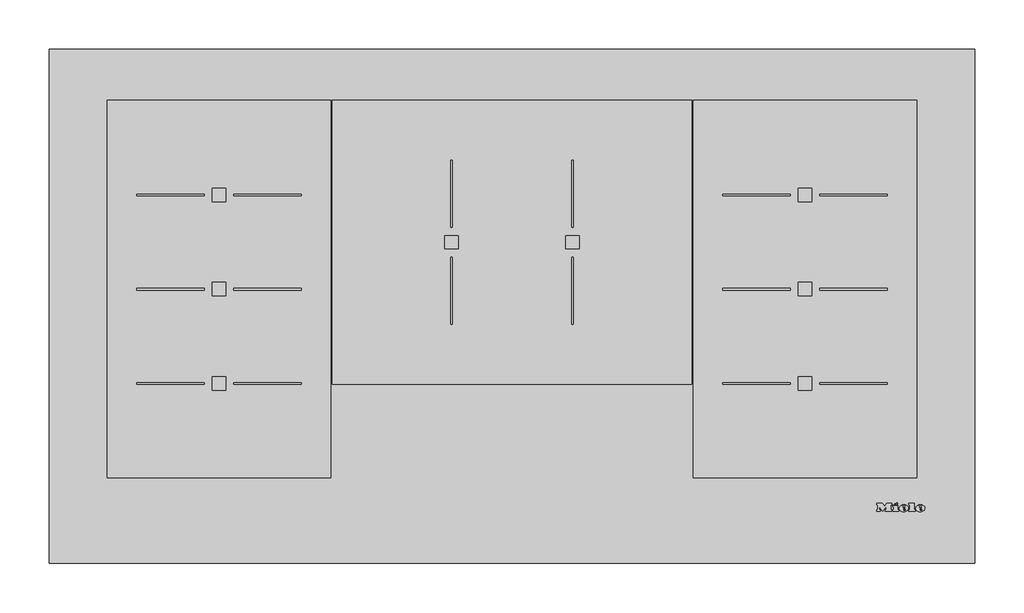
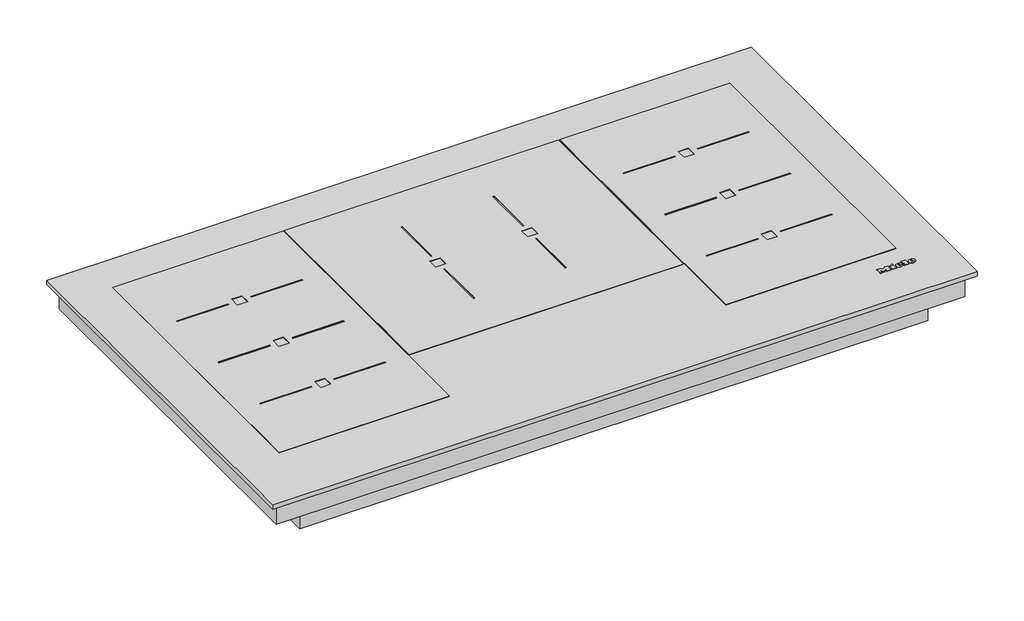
# Not in any storey: 1 proxy.
"""IFC4 building model written with IfcOpenShell, lengths in millimetres."""

import ifcopenshell
import ifcopenshell.guid

model = None  # the IFC model being written
_history = None  # IfcOwnerHistory: only IFC2X3 demands one
_inside = {}  # id of a spatial element -> (the spatial element, [elements in it])
_under = {}  # id of a project, library or spatial element -> (it, [spatial elements below it])
_declared = {}  # id of a project -> (the project, [libraries it declares])
_typed = {}  # id of a type object -> (the type object, [elements of that type])
_made_of = {}  # id of a material, layer set ... -> (it, [elements and type objects made of it])


def new_model(schema):
    """Start an empty IFC model of exactly this schema.

    Asked for "IFC4X3", IfcOpenShell would pick the latest addendum, in which some entities
    have other attributes; the version numbers below select the first issue.
    IFC2X3 requires an IfcOwnerHistory on every rooted entity: one is made here for all.
    """
    global model, _history
    if schema == "IFC4X3":
        model = ifcopenshell.file(schema_version=(4, 3, 0, 0))
    else:
        model = ifcopenshell.file(schema=schema)
    _inside.clear()
    _under.clear()
    _declared.clear()
    _typed.clear()
    _made_of.clear()
    _history = None
    if model.schema == "IFC2X3":
        org = make("IfcOrganization", Name="unknown")
        user = make(
            "IfcPersonAndOrganization",
            ThePerson=make("IfcPerson", FamilyName="unknown"),
            TheOrganization=org,
        )
        app = make(
            "IfcApplication",
            ApplicationDeveloper=org,
            Version="unknown",
            ApplicationFullName="unknown",
            ApplicationIdentifier="unknown",
        )
        _history = make(
            "IfcOwnerHistory",
            OwningUser=user,
            OwningApplication=app,
            ChangeAction="ADDED",
            CreationDate=0,
        )
    return model


def make(cls, **values):
    """One entity of the class cls with the attributes given. An attribute that is None is left unset."""
    return model.create_entity(
        cls, **{name: value for name, value in values.items() if value is not None}
    )


def rooted(cls, **values):
    """An entity with a GlobalId (a new one), such as an element, a storey or a relation."""
    return make(cls, GlobalId=ifcopenshell.guid.new(), OwnerHistory=_history, **values)


def si_unit(unit_type, name, prefix=None):
    """IfcSIUnit, for example si_unit("LENGTHUNIT", "METRE", prefix="MILLI")."""
    return make("IfcSIUnit", UnitType=unit_type, Prefix=prefix, Name=name)


def assignment(units):
    """IfcUnitAssignment: the units of a project."""
    return None if units is None else make("IfcUnitAssignment", Units=units)


def point(xyz):
    """IfcCartesianPoint."""
    return None if xyz is None else make("IfcCartesianPoint", Coordinates=xyz)


def direction(xyz):
    """IfcDirection."""
    return None if xyz is None else make("IfcDirection", DirectionRatios=xyz)


def frame(location, z_axis=None, x_axis=None):
    """IfcAxis2Placement3D, a coordinate frame: its origin and axes. An axis left out is left unset."""
    return make(
        "IfcAxis2Placement3D",
        Location=point(location),
        Axis=direction(z_axis),
        RefDirection=direction(x_axis),
    )


def frame_2d(location, x_axis=None):
    """IfcAxis2Placement2D, a coordinate frame in the plane: its origin and x axis."""
    return make(
        "IfcAxis2Placement2D", Location=point(location), RefDirection=direction(x_axis)
    )


def origin():
    """The frame at (0, 0, 0) with its axes left unset."""
    return frame((0.0, 0.0, 0.0))


def origin_with_axes():
    """The frame at (0, 0, 0) with the z axis (0, 0, 1) and the x axis (1, 0, 0) written out."""
    return frame((0.0, 0.0, 0.0), z_axis=(0.0, 0.0, 1.0), x_axis=(1.0, 0.0, 0.0))


def place(relative_to, where):
    """IfcLocalPlacement: puts the frame where relative to a parent placement (None: the world)."""
    return make(
        "IfcLocalPlacement", PlacementRelTo=relative_to, RelativePlacement=where
    )


def context(
    kind, dimensions, precision=None, world=None, true_north=None, identifier=None
):
    """IfcGeometricRepresentationContext, for example the 3D "Model" context."""
    return make(
        "IfcGeometricRepresentationContext",
        ContextIdentifier=identifier,
        ContextType=kind,
        CoordinateSpaceDimension=dimensions,
        Precision=precision,
        WorldCoordinateSystem=world,
        TrueNorth=true_north,
    )


def project(units=None, contexts=None):
    """IfcProject with its units and contexts."""
    return rooted(
        "IfcProject",
        Name="project",
        RepresentationContexts=contexts,
        UnitsInContext=assignment(units),
    )


def spatial(cls, under=None, at=None, **own):
    """A site, building, storey or space (cls), placed at a placement, below another one or the project."""
    s = rooted(cls, ObjectPlacement=at, **own)
    if under is not None:
        _under.setdefault(under.id(), (under, []))[1].append(s)
    return s


def polyline(points):
    """IfcPolyline through the points."""
    return make("IfcPolyline", Points=[point(p) for p in points])


def circle_curve(where, radius):
    """IfcCircle in the frame where."""
    return make("IfcCircle", Position=where, Radius=radius)


def ellipse_curve(where, semi_axis1, semi_axis2):
    """IfcEllipse in the frame where."""
    return make(
        "IfcEllipse", Position=where, SemiAxis1=semi_axis1, SemiAxis2=semi_axis2
    )


def trimmed(basis, trim1, trim2, sense, master):
    """IfcTrimmedCurve: the piece of a basis curve between two trims."""
    return make(
        "IfcTrimmedCurve",
        BasisCurve=basis,
        Trim1=trim1,
        Trim2=trim2,
        SenseAgreement=sense,
        MasterRepresentation=master,
    )


def segment(curve, same_sense, transition):
    """IfcCompositeCurveSegment."""
    return make(
        "IfcCompositeCurveSegment",
        Transition=transition,
        SameSense=same_sense,
        ParentCurve=curve,
    )


def composite_curve(segments, self_intersect=None):
    """IfcCompositeCurve: segments joined end to end."""
    return make("IfcCompositeCurve", Segments=segments, SelfIntersect=self_intersect)


def outline(outer, holes=None, kind="AREA"):
    """IfcArbitraryClosedProfileDef: a profile drawn as a closed curve; with holes, ...WithVoids."""
    if holes is None:
        return make("IfcArbitraryClosedProfileDef", ProfileType=kind, OuterCurve=outer)
    return make(
        "IfcArbitraryProfileDefWithVoids",
        ProfileType=kind,
        OuterCurve=outer,
        InnerCurves=holes,
    )


def extrude(swept, where, along, depth):
    """IfcExtrudedAreaSolid: the profile swept, set in the frame where, extruded along a direction by depth."""
    return make(
        "IfcExtrudedAreaSolid",
        SweptArea=swept,
        Position=where,
        ExtrudedDirection=direction(along),
        Depth=depth,
    )


def faces_of(points, faces, orient=None, outer=None):
    """IfcFace entities. A face is a list of loops; a loop is a list of indices into points, from 0.

    orient and outer hold one flag for each loop. By default every Orientation is true, the
    first loop of a face is its IfcFaceOuterBound and the others are IfcFaceBound.
    """
    made = []
    for i, loops in enumerate(faces):
        bounds = []
        for j, loop in enumerate(loops):
            is_outer = j == 0 if outer is None else outer[i][j]
            bounds.append(
                make(
                    "IfcFaceOuterBound" if is_outer else "IfcFaceBound",
                    Bound=make("IfcPolyLoop", Polygon=[points[k] for k in loop]),
                    Orientation=True if orient is None else orient[i][j],
                )
            )
        made.append(make("IfcFace", Bounds=bounds))
    return made


def faceted_brep(points, faces, orient=None, outer=None, voids=None):
    """IfcFacetedBrep: a solid bounded by flat faces; with voids (closed shells), ...WithVoids."""
    shared = [point(p) for p in points]
    hull = make("IfcClosedShell", CfsFaces=faces_of(shared, faces, orient, outer))
    if voids is None:
        return make("IfcFacetedBrep", Outer=hull)
    return make(
        "IfcFacetedBrepWithVoids",
        Outer=hull,
        Voids=[
            make(cls, CfsFaces=faces_of(shared, fs, o, b)) for cls, fs, o, b in voids
        ],
    )


def shape(context_of_items, identifier, shape_type, items):
    """IfcShapeRepresentation: the items that make up one representation, for example the "Body"."""
    return make(
        "IfcShapeRepresentation",
        ContextOfItems=context_of_items,
        RepresentationIdentifier=identifier,
        RepresentationType=shape_type,
        Items=items,
    )


def source(mapping_origin, context_of_items, identifier, shape_type, items):
    """IfcRepresentationMap: a shape defined once, which mapped items show again and again."""
    return make(
        "IfcRepresentationMap",
        MappingOrigin=mapping_origin,
        MappedRepresentation=shape(context_of_items, identifier, shape_type, items),
    )


def transform(
    local_origin,
    x_axis=None,
    y_axis=None,
    z_axis=None,
    scale=None,
    scale2=None,
    scale3=None,
    uniform=True,
):
    """IfcCartesianTransformationOperator3D, or its non-uniform kind. x_axis, y_axis, z_axis: its Axis1, 2, 3."""
    if uniform:
        return make(
            "IfcCartesianTransformationOperator3D",
            Axis1=direction(x_axis),
            Axis2=direction(y_axis),
            LocalOrigin=point(local_origin),
            Scale=scale,
            Axis3=direction(z_axis),
        )
    return make(
        "IfcCartesianTransformationOperator3DnonUniform",
        Axis1=direction(x_axis),
        Axis2=direction(y_axis),
        LocalOrigin=point(local_origin),
        Scale=scale,
        Axis3=direction(z_axis),
        Scale2=scale2,
        Scale3=scale3,
    )


def mapped(mapping_source, mapping_target):
    """IfcMappedItem: shows the shape of a source again, moved by a transform."""
    return make(
        "IfcMappedItem", MappingSource=mapping_source, MappingTarget=mapping_target
    )


def made_of(thing, what):
    """Note that an element or type object is made of a material, layer set ...; save() writes the relation."""
    if what is not None:
        _made_of.setdefault(what.id(), (what, []))[1].append(thing)
    return thing


def element(
    cls,
    number,
    at=None,
    inside=None,
    cuts=None,
    type_object=None,
    material=None,
    context=None,
    identifier="Body",
    shape_type=None,
    held_by="IfcProductDefinitionShape",
    body=None,
    shapes=None,
    **own,
):
    """One element of the class cls, such as IfcWall. Its Tag is "e" and its number.

    at: its placement. inside: the storey or other place that contains it. cuts: it is an
    opening in that element (IfcRelVoidsElement). A single representation is given by context,
    identifier, shape_type and body (its items); several are given by shapes. held_by: the class
    of the entity that holds the representations. save() writes the other relations.
    """
    e = rooted(cls, Tag="e%d" % number, ObjectPlacement=at, **own)
    if body is not None:
        shapes = [shape(context, identifier, shape_type, body)]
    if shapes is not None:
        e.Representation = make(held_by, Representations=shapes)
    if inside is not None:
        _inside.setdefault(inside.id(), (inside, []))[1].append(e)
    if cuts is not None:
        rooted(
            "IfcRelVoidsElement", RelatingBuildingElement=cuts, RelatedOpeningElement=e
        )
    if type_object is not None:
        _typed.setdefault(type_object.id(), (type_object, []))[1].append(e)
    return made_of(e, material)


def aggregate(whole, parts):
    """IfcRelAggregates: a whole, such as a stair, and the parts it consists of."""
    return rooted("IfcRelAggregates", RelatingObject=whole, RelatedObjects=parts)


def save(model, path):
    """Write the relations noted so far, then the file.

    IfcRelAggregates (storeys below a building ...), IfcRelContainedInSpatialStructure (elements
    in a storey), IfcRelDefinesByType, IfcRelAssociatesMaterial and IfcRelDeclares: one each for
    every whole, place, type object, material and project.
    """
    for whole, parts in _under.values():
        aggregate(whole, parts)
    for where, things in _inside.values():
        rooted(
            "IfcRelContainedInSpatialStructure",
            RelatedElements=things,
            RelatingStructure=where,
        )
    for kind, things in _typed.values():
        rooted("IfcRelDefinesByType", RelatedObjects=things, RelatingType=kind)
    for what, things in _made_of.values():
        rooted("IfcRelAssociatesMaterial", RelatedObjects=things, RelatingMaterial=what)
    for by, libraries in _declared.values():
        rooted("IfcRelDeclares", RelatingContext=by, RelatedDefinitions=libraries)
    model.write(path)


def plane_surface(at):
    """IfcPlane: the flat surface through the origin of the frame at, square to its z axis."""
    return make("IfcPlane", Position=at)


def cylinder_surface(at, radius):
    """IfcCylindricalSurface: all points at the distance radius from the z axis of the frame at."""
    return make("IfcCylindricalSurface", Position=at, Radius=radius)


def revolved_surface(curve, axis_point, axis_direction):
    """IfcSurfaceOfRevolution: the curve turned about the line through axis_point along axis_direction."""
    return make(
        "IfcSurfaceOfRevolution",
        SweptCurve=make("IfcArbitraryOpenProfileDef", ProfileType="CURVE", Curve=curve),
        AxisPosition=make("IfcAxis1Placement", Location=point(axis_point), Axis=direction(axis_direction)),
    )


def extruded_surface(curve, direction_of_extrusion, depth):
    """IfcSurfaceOfLinearExtrusion: the curve pushed along a direction by depth."""
    return make(
        "IfcSurfaceOfLinearExtrusion",
        SweptCurve=make("IfcArbitraryOpenProfileDef", ProfileType="CURVE", Curve=curve),
        ExtrudedDirection=direction(direction_of_extrusion),
        Depth=depth,
    )


def advanced_brep(points, edges, surfaces, faces):
    """IfcAdvancedBrep: a solid bounded by faces that lie on surfaces and meet in shared edges.

    An edge is (start, end): straight between two places in points (the first is 0);
    or (start, end, curve); or (start, end, curve, False) where it runs against its curve.
    A face is (place in surfaces, loops), or (place, loops, False) where it looks against
    its surface's normal. A loop lists edges by number (the first is 1), with a minus sign
    where the edge is run from its end to its start. The first loop is the outer one.
    """
    corners = [point(p) for p in points]
    vertices = [make("IfcVertexPoint", VertexGeometry=c) for c in corners]
    made = []
    for start, end, *more in edges:
        made.append(
            make(
                "IfcEdgeCurve",
                EdgeStart=vertices[start],
                EdgeEnd=vertices[end],
                EdgeGeometry=more[0] if more else make("IfcPolyline", Points=[corners[start], corners[end]]),
                SameSense=more[1] if len(more) > 1 else True,
            )
        )
    hull = []
    for where, loops, *sense in faces:
        bounds = []
        for j, loop in enumerate(loops):
            ring = [make("IfcOrientedEdge", EdgeElement=made[abs(k) - 1], Orientation=k > 0) for k in loop]
            bounds.append(
                make(
                    "IfcFaceOuterBound" if j == 0 else "IfcFaceBound",
                    Bound=make("IfcEdgeLoop", EdgeList=ring),
                    Orientation=True,
                )
            )
        hull.append(make("IfcAdvancedFace", Bounds=bounds, FaceSurface=surfaces[where], SameSense=sense[0] if sense else True))
    return make("IfcAdvancedBrep", Outer=make("IfcClosedShell", CfsFaces=hull))


def specialty_equipment_02190315(model_context):
    return source(origin(), model_context, "Body", "SolidModel", [
        advanced_brep(
        [(412.46, 54.6948833, 6.4802537), (412.46, 55.5028828, 6.4811551), (417.812, 55.5028828, 6.4811551), (408.5, 55.5028828, 6.4811551), (410.7, 52.7988845, 6.4781386), (417.676, 54.6948833, 6.4802537), (415.26, 54.6948833, 6.4802537), (413.356, 53.7988838, 6.4792542), (412.46, 56.5268821, 6.4822974), (412.46, 57.3988816, 6.4832701), (413.828, 57.3988816, 6.4832701), (413.828, 56.5268821, 6.4822974), (412.46, 54.6959988, 5.4802543), (413.356, 53.7999994, 5.4792548), (415.26, 54.6959988, 5.4802543), (417.676, 54.6959988, 5.4802543), (410.7, 52.8, 5.4781393), (408.5, 55.5039983, 5.4811557), (417.812, 55.5039983, 5.4811557), (412.46, 55.5039983, 5.4811557), (412.46, 56.5279977, 5.482298), (413.828, 56.5279977, 5.482298), (413.828, 57.3999971, 5.4832707), (412.46, 57.3999971, 5.4832707)],
        [
            (0, 1),
            (1, 2),
            (2, 3, ellipse_curve(frame((413.156, 55.5028828, 6.4811551), z_axis=(0.0, -0.0011155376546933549, 0.9999993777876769), x_axis=(-1.0, 0.0, 0.0)), 4.656, 3.848)),
            (3, 4, circle_curve(frame((411.5960436, 55.7748826, 6.4814585), z_axis=(0.0, -0.0011155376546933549, 0.9999993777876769), x_axis=(0.0, -0.9999993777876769, -0.0011155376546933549)), 3.1079688)),
            (4, 5, circle_curve(frame((413.0627936, 57.8868813, 6.4838145), z_axis=(0.0, -0.0011155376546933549, 0.9999993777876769), x_axis=(0.0, -0.9999993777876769, -0.0011155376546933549)), 5.6098607)),
            (5, 6),
            (6, 7, circle_curve(frame((413.7470588, 55.4388828, 6.4810837), z_axis=(0.0, 0.0011155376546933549, -0.9999993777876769), x_axis=(0.0, -0.9999993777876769, -0.0011155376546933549)), 1.6859795)),
            (7, 0, circle_curve(frame((413.356, 54.6948833, 6.4802537), z_axis=(0.0, 0.0011155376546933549, -0.9999993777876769), x_axis=(0.0, -0.9999993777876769, -0.0011155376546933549)), 0.896)),
            (8, 9),
            (9, 10, circle_curve(frame((413.144, 57.3988816, 6.4832701), z_axis=(0.0, 0.0011155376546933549, -0.9999993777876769), x_axis=(0.0, -0.9999993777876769, -0.0011155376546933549)), 0.684)),
            (10, 11),
            (11, 8),
            (12, 13, circle_curve(frame((413.356, 54.6959988, 5.4802543), z_axis=(0.0, -0.0011155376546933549, 0.9999993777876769), x_axis=(0.0, -0.9999993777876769, -0.0011155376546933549)), 0.896)),
            (13, 14, circle_curve(frame((413.7470588, 55.4399984, 5.4810843), z_axis=(0.0, -0.0011155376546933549, 0.9999993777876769), x_axis=(0.0, -0.9999993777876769, -0.0011155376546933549)), 1.6859795)),
            (14, 15),
            (15, 16, circle_curve(frame((413.0627936, 57.8879968, 5.4838151), z_axis=(0.0, 0.0011155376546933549, -0.9999993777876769), x_axis=(0.0, -0.9999993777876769, -0.0011155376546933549)), 5.6098607)),
            (16, 17, circle_curve(frame((411.5960436, 55.7759981, 5.4814591), z_axis=(0.0, 0.0011155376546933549, -0.9999993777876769), x_axis=(0.0, -0.9999993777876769, -0.0011155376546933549)), 3.1079688)),
            (17, 18, ellipse_curve(frame((413.156, 55.5039983, 5.4811557), z_axis=(0.0, 0.0011155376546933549, -0.9999993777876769), x_axis=(-1.0, 0.0, 0.0)), 4.656, 3.848)),
            (18, 19),
            (19, 12),
            (20, 21),
            (21, 22),
            (22, 23, circle_curve(frame((413.144, 57.3999971, 5.4832707), z_axis=(0.0, -0.0011155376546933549, 0.9999993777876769), x_axis=(0.0, -0.9999993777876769, -0.0011155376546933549)), 0.684)),
            (23, 20),
            (0, 12),
            (19, 1),
            (18, 2),
            (5, 15),
            (14, 6),
            (17, 3),
            (13, 7),
            (16, 4),
            (8, 20),
            (23, 9),
            (22, 10),
            (21, 11),
        ],
        [
            plane_surface(frame((412.46, 55.5028828, 6.4811551), z_axis=(0.0, -0.0011155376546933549, 0.9999993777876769), x_axis=(0.0, 0.9999993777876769, 0.0011155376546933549))),
            plane_surface(frame((412.46, 55.5039983, 5.4811557), z_axis=(0.0, 0.0011155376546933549, -0.9999993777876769), x_axis=(0.0, -0.9999993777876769, -0.0011155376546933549))),
            plane_surface(frame((412.46, 54.6948833, 6.4802537), z_axis=(1.0000000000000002, 0.0, 0.0), x_axis=(0.0, 0.001115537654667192, -0.999999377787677))),
            plane_surface(frame((412.46, 55.5028828, 6.4811551), z_axis=(0.0, -0.999999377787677, -0.001115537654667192), x_axis=(0.0, 0.001115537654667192, -0.999999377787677))),
            plane_surface(frame((417.676, 54.6948833, 6.4802537), z_axis=(0.0, 0.999999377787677, 0.001115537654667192), x_axis=(0.0, 0.001115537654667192, -0.999999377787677))),
            extruded_surface(trimmed(ellipse_curve(frame((413.156, 55.5051139, 4.4811563), z_axis=(0.0, -0.0011155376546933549, 0.9999993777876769), x_axis=(-1.0, 0.0, 0.0)), 4.656, 3.848), [point((417.812, 55.5051139, 4.4811563))], [point((408.5, 55.5051139, 4.4811563))], True, "CARTESIAN"), (0.0, -0.001115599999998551, 0.9999994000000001), 1.00000002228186),
            revolved_surface(polyline([(413.7470588, 53.75401994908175, 5.479203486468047), (413.7470588, 53.75290441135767, 6.4792029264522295)]), (413.7470588, 55.4399984, 5.4810843), (0.0, 0.0011155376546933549, -0.9999993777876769)),
            revolved_surface(polyline([(413.356, 53.79999935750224, 5.479254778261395), (413.356, 53.79888381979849, 6.479254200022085)]), (413.356, 54.6959988, 5.4802543), (0.0, 0.0011155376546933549, -0.9999993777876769)),
            cylinder_surface(frame((411.5960436, 55.7759981, 5.4814591), z_axis=(0.0, -0.0011155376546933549, 0.9999993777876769), x_axis=(0.0, -0.9999993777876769, -0.0011155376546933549)), 3.1079688),
            cylinder_surface(frame((413.0627936, 57.8879968, 5.4838151), z_axis=(0.0, -0.0011155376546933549, 0.9999993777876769), x_axis=(0.0, -0.9999993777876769, -0.0011155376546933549)), 5.6098607),
            plane_surface(frame((412.46, 56.5268821, 6.4822974), z_axis=(1.0000000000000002, 0.0, 0.0), x_axis=(0.0, 0.001115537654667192, -0.999999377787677))),
            revolved_surface(polyline([(413.144, 56.71599752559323, 5.48250767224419), (413.144, 56.714881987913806, 6.482507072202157)]), (413.144, 57.3999971, 5.4832707), (0.0, 0.0011155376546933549, -0.9999993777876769)),
            plane_surface(frame((413.828, 57.3988816, 6.4832701), z_axis=(-1.0000000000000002, 0.0, 0.0), x_axis=(0.0, 0.001115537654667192, -0.999999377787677))),
            plane_surface(frame((413.828, 56.5268821, 6.4822974), z_axis=(0.0, 0.999999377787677, 0.001115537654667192), x_axis=(0.0, 0.001115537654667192, -0.999999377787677))),
        ],
        [
            (0, [[1, 2, 3, 4, 5, 6, 7, 8], [9, 10, 11, 12]]),
            (1, [[13, 14, 15, 16, 17, 18, 19, 20], [21, 22, 23, 24]]),
            (2, [[-1, 25, -20, 26]]),
            (3, [[-2, -26, -19, 27]]),
            (4, [[-6, 28, -15, 29]]),
            (5, [[-3, -27, -18, 30]]),
            (6, [[-7, -29, -14, 31]]),
            (7, [[-8, -31, -13, -25]]),
            (8, [[-4, -30, -17, 32]]),
            (9, [[-5, -32, -16, -28]]),
            (10, [[-9, 33, -24, 34]]),
            (11, [[-10, -34, -23, 35]]),
            (12, [[-11, -35, -22, 36]]),
            (13, [[-12, -36, -21, -33]]),
        ],
    ),
        advanced_brep(
        [(395.764, 54.6948833, 6.4802537), (395.764, 55.5028828, 6.4811551), (401.116, 55.5028828, 6.4811551), (391.804, 55.5028828, 6.4811551), (394.004, 52.7988845, 6.4781386), (400.98, 54.6948833, 6.4802537), (398.564, 54.6948833, 6.4802537), (396.66, 53.7988838, 6.4792542), (395.764, 56.5268821, 6.4822974), (395.764, 57.3988816, 6.4832701), (397.132, 57.3988816, 6.4832701), (397.132, 56.5268821, 6.4822974), (395.764, 54.6959988, 5.4802543), (396.66, 53.7999994, 5.4792548), (398.564, 54.6959988, 5.4802543), (400.98, 54.6959988, 5.4802543), (394.004, 52.8, 5.4781393), (391.804, 55.5039983, 5.4811557), (401.116, 55.5039983, 5.4811557), (395.764, 55.5039983, 5.4811557), (395.764, 56.5279977, 5.482298), (397.132, 56.5279977, 5.482298), (397.132, 57.3999971, 5.4832707), (395.764, 57.3999971, 5.4832707)],
        [
            (0, 1),
            (1, 2),
            (2, 3, ellipse_curve(frame((396.46, 55.5028828, 6.4811551), z_axis=(0.0, -0.0011155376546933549, 0.9999993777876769), x_axis=(-1.0, 0.0, 0.0)), 4.656, 3.848)),
            (3, 4, circle_curve(frame((394.9000436, 55.7748826, 6.4814585), z_axis=(0.0, -0.0011155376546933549, 0.9999993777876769), x_axis=(0.0, -0.9999993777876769, -0.0011155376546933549)), 3.1079688)),
            (4, 5, circle_curve(frame((396.3667936, 57.8868813, 6.4838145), z_axis=(0.0, -0.0011155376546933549, 0.9999993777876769), x_axis=(0.0, -0.9999993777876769, -0.0011155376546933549)), 5.6098607)),
            (5, 6),
            (6, 7, circle_curve(frame((397.0510588, 55.4388828, 6.4810837), z_axis=(0.0, 0.0011155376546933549, -0.9999993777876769), x_axis=(0.0, -0.9999993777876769, -0.0011155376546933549)), 1.6859795)),
            (7, 0, circle_curve(frame((396.66, 54.6948833, 6.4802537), z_axis=(0.0, 0.0011155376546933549, -0.9999993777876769), x_axis=(0.0, -0.9999993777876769, -0.0011155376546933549)), 0.896)),
            (8, 9),
            (9, 10, circle_curve(frame((396.448, 57.3988816, 6.4832701), z_axis=(0.0, 0.0011155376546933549, -0.9999993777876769), x_axis=(0.0, -0.9999993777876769, -0.0011155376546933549)), 0.684)),
            (10, 11),
            (11, 8),
            (12, 13, circle_curve(frame((396.66, 54.6959988, 5.4802543), z_axis=(0.0, -0.0011155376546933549, 0.9999993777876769), x_axis=(0.0, -0.9999993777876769, -0.0011155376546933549)), 0.896)),
            (13, 14, circle_curve(frame((397.0510588, 55.4399984, 5.4810843), z_axis=(0.0, -0.0011155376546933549, 0.9999993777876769), x_axis=(0.0, -0.9999993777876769, -0.0011155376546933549)), 1.6859795)),
            (14, 15),
            (15, 16, circle_curve(frame((396.3667936, 57.8879968, 5.4838151), z_axis=(0.0, 0.0011155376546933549, -0.9999993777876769), x_axis=(0.0, -0.9999993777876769, -0.0011155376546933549)), 5.6098607)),
            (16, 17, circle_curve(frame((394.9000436, 55.7759981, 5.4814591), z_axis=(0.0, 0.0011155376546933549, -0.9999993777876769), x_axis=(0.0, -0.9999993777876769, -0.0011155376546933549)), 3.1079688)),
            (17, 18, ellipse_curve(frame((396.46, 55.5039983, 5.4811557), z_axis=(0.0, 0.0011155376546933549, -0.9999993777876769), x_axis=(-1.0, 0.0, 0.0)), 4.656, 3.848)),
            (18, 19),
            (19, 12),
            (20, 21),
            (21, 22),
            (22, 23, circle_curve(frame((396.448, 57.3999971, 5.4832707), z_axis=(0.0, -0.0011155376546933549, 0.9999993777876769), x_axis=(0.0, -0.9999993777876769, -0.0011155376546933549)), 0.684)),
            (23, 20),
            (0, 12),
            (19, 1),
            (18, 2),
            (5, 15),
            (14, 6),
            (17, 3),
            (13, 7),
            (16, 4),
            (8, 20),
            (23, 9),
            (22, 10),
            (21, 11),
        ],
        [
            plane_surface(frame((395.764, 55.5028828, 6.4811551), z_axis=(0.0, -0.0011155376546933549, 0.9999993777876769), x_axis=(0.0, 0.9999993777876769, 0.0011155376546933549))),
            plane_surface(frame((395.764, 55.5039983, 5.4811557), z_axis=(0.0, 0.0011155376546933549, -0.9999993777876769), x_axis=(0.0, -0.9999993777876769, -0.0011155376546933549))),
            plane_surface(frame((395.764, 54.6948833, 6.4802537), z_axis=(1.0000000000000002, 0.0, 0.0), x_axis=(0.0, 0.001115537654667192, -0.999999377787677))),
            plane_surface(frame((395.764, 55.5028828, 6.4811551), z_axis=(0.0, -0.999999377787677, -0.001115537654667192), x_axis=(0.0, 0.001115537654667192, -0.999999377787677))),
            plane_surface(frame((400.98, 54.6948833, 6.4802537), z_axis=(0.0, 0.999999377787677, 0.001115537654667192), x_axis=(0.0, 0.001115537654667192, -0.999999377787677))),
            extruded_surface(trimmed(ellipse_curve(frame((396.46, 55.5051139, 4.4811563), z_axis=(0.0, -0.0011155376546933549, 0.9999993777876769), x_axis=(-1.0, 0.0, 0.0)), 4.656, 3.848), [point((401.116, 55.5051139, 4.4811563))], [point((391.804, 55.5051139, 4.4811563))], True, "CARTESIAN"), (0.0, -0.001115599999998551, 0.9999994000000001), 1.00000002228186),
            revolved_surface(polyline([(397.0510588, 53.75401994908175, 5.479203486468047), (397.0510588, 53.75290441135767, 6.4792029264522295)]), (397.0510588, 55.4399984, 5.4810843), (0.0, 0.0011155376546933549, -0.9999993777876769)),
            revolved_surface(polyline([(396.66, 53.79999935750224, 5.479254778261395), (396.66, 53.79888381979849, 6.479254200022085)]), (396.66, 54.6959988, 5.4802543), (0.0, 0.0011155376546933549, -0.9999993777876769)),
            cylinder_surface(frame((394.9000436, 55.7759981, 5.4814591), z_axis=(0.0, -0.0011155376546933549, 0.9999993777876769), x_axis=(0.0, -0.9999993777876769, -0.0011155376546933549)), 3.1079688),
            cylinder_surface(frame((396.3667936, 57.8879968, 5.4838151), z_axis=(0.0, -0.0011155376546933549, 0.9999993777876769), x_axis=(0.0, -0.9999993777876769, -0.0011155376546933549)), 5.6098607),
            plane_surface(frame((395.764, 56.5268821, 6.4822974), z_axis=(1.0000000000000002, 0.0, 0.0), x_axis=(0.0, 0.001115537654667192, -0.999999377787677))),
            revolved_surface(polyline([(396.448, 56.71599752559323, 5.48250767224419), (396.448, 56.714881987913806, 6.482507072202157)]), (396.448, 57.3999971, 5.4832707), (0.0, 0.0011155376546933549, -0.9999993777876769)),
            plane_surface(frame((397.132, 57.3988816, 6.4832701), z_axis=(-1.0000000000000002, 0.0, 0.0), x_axis=(0.0, 0.001115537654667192, -0.999999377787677))),
            plane_surface(frame((397.132, 56.5268821, 6.4822974), z_axis=(0.0, 0.999999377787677, 0.001115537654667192), x_axis=(0.0, 0.001115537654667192, -0.999999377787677))),
        ],
        [
            (0, [[1, 2, 3, 4, 5, 6, 7, 8], [9, 10, 11, 12]]),
            (1, [[13, 14, 15, 16, 17, 18, 19, 20], [21, 22, 23, 24]]),
            (2, [[-1, 25, -20, 26]]),
            (3, [[-2, -26, -19, 27]]),
            (4, [[-6, 28, -15, 29]]),
            (5, [[-3, -27, -18, 30]]),
            (6, [[-7, -29, -14, 31]]),
            (7, [[-8, -31, -13, -25]]),
            (8, [[-4, -30, -17, 32]]),
            (9, [[-5, -32, -16, -28]]),
            (10, [[-9, 33, -24, 34]]),
            (11, [[-10, -34, -23, 35]]),
            (12, [[-11, -35, -22, 36]]),
            (13, [[-12, -36, -21, -33]]),
        ],
    ),
        extrude(outline(polyline([(0.0, 0.0), (-0.0109086, -2.9993294), (-1.4390415, -2.9920868), (-1.4315307, 0.0), (0.0, 0.0)])), frame((387.02, 60.3279953, 5.486537), z_axis=(0.0, -0.001115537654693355, 0.999999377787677), x_axis=(-0.4247202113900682, 0.9053240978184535, 0.0010099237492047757)), (0.0, 0.0, 1.0), 1.0),
        extrude(outline(polyline([(-0.4933908, 2.4141097), (-2.7800844, -2.4601583), (-7.0459741, -0.4588767), (-7.4401145, -1.299018), (-8.6568709, -0.728194), (-5.9760369, 4.9862153), (-4.7592805, 4.4153913), (-5.1636142, 3.5535222), (-2.1941493, 2.1604399), (-1.7898157, 3.022309), (-0.4933908, 2.4141097)])), frame((387.02, 60.3279953, 5.486537), z_axis=(0.0, -0.001115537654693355, 0.999999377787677), x_axis=(-0.4247202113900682, 0.9053240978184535, 0.0010099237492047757)), (0.0, 0.0, 1.0), 1.0),
        extrude(outline(polyline([(0.0, 0.0), (0.0, -1.304), (-5.504, -1.304), (-5.504, 5.3519999), (-6.488, 5.3519999), (-6.488, 6.696), (0.0, 6.696), (0.0, 5.3519999), (-0.96, 5.3519999), (-0.96, 0.0), (0.0, 0.0)])), frame((401.564, 59.4959958, 5.4856089), z_axis=(0.0, -0.0011155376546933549, 0.9999993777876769), x_axis=(-1.0, 0.0, 0.0)), (0.0, 0.0, 1.0), 1.0),
        extrude(outline(polyline([(0.0, 0.0), (0.0, -1.304), (-5.576, -1.304), (-7.92, 1.696), (-10.256, -1.304), (-15.128, -1.304), (-15.128, 0.0), (-14.112, 0.0), (-14.112, 5.3519999), (-15.128, 5.3519999), (-15.128, 6.696), (-8.744, 6.696), (-8.744, 5.3519999), (-9.728, 5.3519999), (-9.728, 1.8807777), (-6.136, 6.696), (-2.56, 1.9488752), (-2.56, 5.3519999), (-3.52, 5.3519999), (-3.52, 6.696), (0.0, 6.696), (0.0, 5.3519999), (-0.968, 5.3519999), (-0.968, 0.0), (0.0, 0.0)])), frame((369.1, 59.4959958, 5.4856089), z_axis=(0.0, -0.0011155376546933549, 0.9999993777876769), x_axis=(-1.0, 0.0, 0.0)), (0.0, 0.0, 1.0), 1.0),
        extrude(outline(polyline([(-175.6227397, 460.2), (-183.0, 460.2), (-183.0, 461.4557039), (-176.8784436, 461.4557039), (-176.8784436, 464.7519266), (-182.529111, 464.7519266), (-182.529111, 466.0076304), (-176.8784436, 466.0076304), (-176.8784436, 468.9899271), (-182.843037, 468.9899271), (-182.843037, 470.245631), (-175.6227397, 470.245631), (-175.6227397, 460.2)])), frame((0.0, 0.0, -91.8), z_axis=(0.0, 0.0, 1.0), x_axis=(1.0, 0.0, 0.0)), (0.0, 0.0, 1.0), 1.0),
        extrude(outline(polyline([(-184.8835558, 460.2), (-191.1620752, 460.2), (-191.1620752, 461.4557039), (-186.1392597, 461.4557039), (-186.1392597, 470.245631), (-184.8835558, 470.245631), (-184.8835558, 460.2)])), frame((0.0, 0.0, -91.8), z_axis=(0.0, 0.0, 1.0), x_axis=(1.0, 0.0, 0.0)), (0.0, 0.0, 1.0), 1.0),
        extrude(outline(polyline([(468.0, 520.0), (468.0, 0.0), (-468.0, 0.0), (-468.0, 520.0), (468.0, 520.0)])), origin_with_axes(), (0.0, 0.0, 1.0), 6.0),
        faceted_brep([(457.2, 509.2, 0.0), (-457.2, 509.2, 0.0), (-457.2, 10.8, 0.0), (457.2, 10.8, 0.0), (457.2, 509.2, -31.6), (-457.2, 509.2, -31.6), (-457.2, 10.8, -31.6), (457.2, 10.8, -31.6), (417.2, 494.2, -60.8), (417.2, 25.8, -60.8), (-417.2, 25.8, -60.8), (-417.2, 494.2, -60.8), (417.2, 494.2, -31.6), (-417.2, 494.2, -31.6), (-417.2, 25.8, -31.6), (417.2, 25.8, -31.6)], [[[0, 1, 2, 3]], [[1, 0, 4, 5]], [[2, 1, 5, 6]], [[3, 2, 6, 7]], [[0, 3, 7, 4]], [[8, 9, 10, 11]], [[4, 7, 6, 5], [12, 13, 14, 15]], [[8, 11, 13, 12]], [[11, 10, 14, 13]], [[10, 9, 15, 14]], [[9, 8, 12, 15]]]),
        extrude(outline(composite_curve([segment(trimmed(circle_curve(frame_2d((-183.0, 465.2)), 7.5), [point((-183.0, 472.7))], [point((-183.0, 457.7))], False, "CARTESIAN"), True, "CONTINUOUS"), segment(trimmed(circle_curve(frame_2d((-183.0, 465.2)), 7.5), [point((-183.0, 457.7))], [point((-183.0, 472.7))], False, "CARTESIAN"), True, "CONTINUOUS")], self_intersect=False)), frame((0.0, 0.0, -90.8), z_axis=(0.0, 0.0, 1.0), x_axis=(1.0, 0.0, 0.0)), (0.0, 0.0, 1.0), 30.0),
        extrude(outline(polyline([(-183.4, 468.4), (-183.4, 86.4), (-409.6, 86.4), (-409.6, 468.4), (-183.4, 468.4)]), holes=[polyline([(-289.7, 379.7), (-303.3, 379.7), (-303.3, 366.1), (-289.7, 366.1), (-289.7, 379.7)]), polyline([(-289.7, 284.2), (-303.3, 284.2), (-303.3, 270.6), (-289.7, 270.6), (-289.7, 284.2)]), polyline([(-289.7, 188.7), (-303.3, 188.7), (-303.3, 175.1), (-289.7, 175.1), (-289.7, 188.7)]), polyline([(-379.6, 182.7), (-379.6, 181.1), (-311.5, 181.1), (-311.5, 182.7), (-379.6, 182.7)]), polyline([(-213.4, 182.7), (-281.5, 182.7), (-281.5, 181.1), (-213.4, 181.1), (-213.4, 182.7)]), polyline([(-213.4, 278.2), (-281.5, 278.2), (-281.5, 276.6), (-213.4, 276.6), (-213.4, 278.2)]), polyline([(-311.5, 278.2), (-379.6, 278.2), (-379.6, 276.6), (-311.5, 276.6), (-311.5, 278.2)]), polyline([(-311.5, 373.7), (-379.6, 373.7), (-379.6, 372.1), (-311.5, 372.1), (-311.5, 373.7)]), polyline([(-213.4, 373.7), (-281.5, 373.7), (-281.5, 372.1), (-213.4, 372.1), (-213.4, 373.7)])]), frame((0.0, 0.0, 6.0), z_axis=(0.0, 0.0, 1.0), x_axis=(1.0, 0.0, 0.0)), (0.0, 0.0, 1.0), 1.0),
        extrude(outline(polyline([(181.8, 468.4), (181.8, 181.4), (-181.8, 181.4), (-181.8, 468.4), (181.8, 468.4)]), holes=[polyline([(67.8, 331.7), (54.2, 331.7), (54.2, 318.1), (67.8, 318.1), (67.8, 331.7)]), polyline([(-54.2, 331.7), (-67.8, 331.7), (-67.8, 318.1), (-54.2, 318.1), (-54.2, 331.7)]), polyline([(-60.2, 408.0), (-61.8, 408.0), (-61.8, 339.9), (-60.2, 339.9), (-60.2, 408.0)]), polyline([(-60.2, 309.9), (-61.8, 309.9), (-61.8, 241.8), (-60.2, 241.8), (-60.2, 309.9)]), polyline([(61.8, 309.9), (60.2, 309.9), (60.2, 241.8), (61.8, 241.8), (61.8, 309.9)]), polyline([(61.8, 408.0), (60.2, 408.0), (60.2, 339.9), (61.8, 339.9), (61.8, 408.0)])]), frame((0.0, 0.0, 6.0), z_axis=(0.0, 0.0, 1.0), x_axis=(1.0, 0.0, 0.0)), (0.0, 0.0, 1.0), 1.0),
        extrude(outline(polyline([(409.6, 86.4), (183.4, 86.4), (183.4, 468.4), (409.6, 468.4), (409.6, 86.4)]), holes=[polyline([(303.3, 379.7), (289.7, 379.7), (289.7, 366.1), (303.3, 366.1), (303.3, 379.7)]), polyline([(303.3, 284.2), (289.7, 284.2), (289.7, 270.6), (303.3, 270.6), (303.3, 284.2)]), polyline([(303.3, 188.7), (289.7, 188.7), (289.7, 175.1), (303.3, 175.1), (303.3, 188.7)]), polyline([(281.5, 373.7), (213.4, 373.7), (213.4, 372.1), (281.5, 372.1), (281.5, 373.7)]), polyline([(379.6, 373.7), (311.5, 373.7), (311.5, 372.1), (379.6, 372.1), (379.6, 373.7)]), polyline([(379.6, 278.2), (311.5, 278.2), (311.5, 276.6), (379.6, 276.6), (379.6, 278.2)]), polyline([(281.5, 278.2), (213.4, 278.2), (213.4, 276.6), (281.5, 276.6), (281.5, 278.2)]), polyline([(281.5, 182.7), (213.4, 182.7), (213.4, 181.1), (281.5, 181.1), (281.5, 182.7)]), polyline([(379.6, 182.7), (311.5, 182.7), (311.5, 181.1), (379.6, 181.1), (379.6, 182.7)])]), frame((0.0, 0.0, 6.0), z_axis=(0.0, 0.0, 1.0), x_axis=(1.0, 0.0, 0.0)), (0.0, 0.0, 1.0), 1.0),
    ])


model = new_model("IFC4")

# Units and contexts
model_context = context("Model", 3, world=origin())
ifc_project = project(units=[si_unit("LENGTHUNIT", "METRE", prefix="MILLI")], contexts=[model_context])

# Site, building
site = spatial("IfcSite", under=ifc_project)
building = spatial("IfcBuilding", under=site)

# Proxy
placement = place(None, origin())
specialty_equipment_shape = specialty_equipment_02190315(model_context)
element("IfcBuildingElementProxy", 1, Name="11218230_IB_KM7999FL : 26799970_IB_11218230_KM7999FL", ObjectType="11218230_IB_KM7999FL : 26799970_IB_11218230_KM7999FL", at=placement, inside=building, context=model_context, shape_type="MappedRepresentation", body=[
    mapped(specialty_equipment_shape, transform((0.0, 0.0, 0.0), x_axis=(1.0, 0.0, 0.0), y_axis=(0.0, 1.0, 0.0), z_axis=(0.0, 0.0, 1.0))),
])

save(model, "model.ifc")
